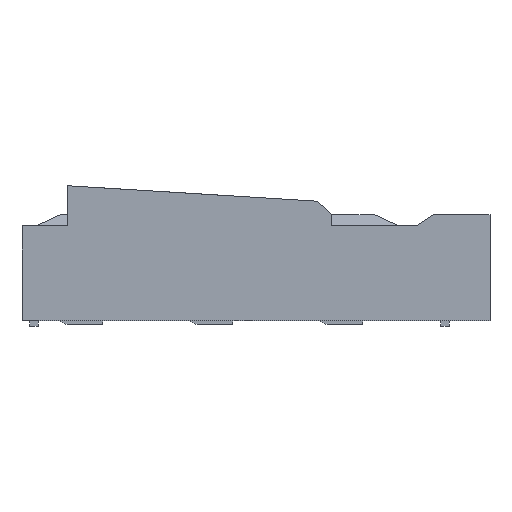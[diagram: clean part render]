
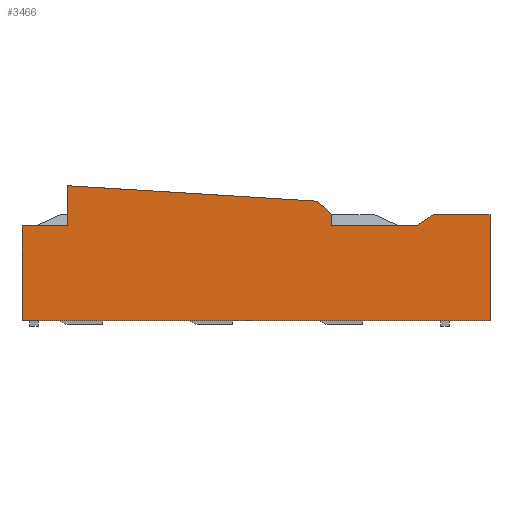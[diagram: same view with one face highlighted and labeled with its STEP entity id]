
A CAD part, left-side view. The second image highlights one B-rep face of the part: STEP entity #3466.
In plain terms, the highlighted planar face has unit normal (-1, 0, 0).
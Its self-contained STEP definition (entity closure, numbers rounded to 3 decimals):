
#76 = DIRECTION ( 'NONE',  ( 0., 1., 0. ) ) ;
#122 = DIRECTION ( 'NONE',  ( 0., 0.842, -0.539 ) ) ;
#161 = VERTEX_POINT ( 'NONE', #3608 ) ;
#386 = VECTOR ( 'NONE', #3342, 1000. ) ;
#442 = DIRECTION ( 'NONE',  ( 0., 1., 0. ) ) ;
#457 = DIRECTION ( 'NONE',  ( 0., 0.998, 0.062 ) ) ;
#473 = AXIS2_PLACEMENT_3D ( 'NONE', #1100, #1426, #3619 ) ;
#477 = CARTESIAN_POINT ( 'NONE',  ( -50., 268., 0. ) ) ;
#492 = LINE ( 'NONE', #3957, #3857 ) ;
#642 = LINE ( 'NONE', #3910, #3901 ) ;
#775 = PLANE ( 'NONE',  #473 ) ;
#786 = FACE_OUTER_BOUND ( 'NONE', #1377, .T. ) ;
#806 = DIRECTION ( 'NONE',  ( 0., 0., -1. ) ) ;
#851 = LINE ( 'NONE', #1093, #1406 ) ;
#855 = CARTESIAN_POINT ( 'NONE',  ( -50., -253., 159. ) ) ;
#957 = VECTOR ( 'NONE', #3882, 1000. ) ;
#1093 = CARTESIAN_POINT ( 'NONE',  ( -50., 0., 143. ) ) ;
#1100 = CARTESIAN_POINT ( 'NONE',  ( -50., 333., 200. ) ) ;
#1145 = VERTEX_POINT ( 'NONE', #2088 ) ;
#1270 = VECTOR ( 'NONE', #2276, 1000. ) ;
#1377 = EDGE_LOOP ( 'NONE', ( #3689, #3990, #1442, #2362, #1578, #2057, #2353, #1493, #1785, #3044, #1487 ) ) ;
#1406 = VECTOR ( 'NONE', #442, 1000. ) ;
#1426 = DIRECTION ( 'NONE',  ( 1., 0., 0. ) ) ;
#1442 = ORIENTED_EDGE ( 'NONE', *, *, #2550, .F. ) ;
#1487 = ORIENTED_EDGE ( 'NONE', *, *, #2631, .T. ) ;
#1493 = ORIENTED_EDGE ( 'NONE', *, *, #2446, .T. ) ;
#1511 = LINE ( 'NONE', #2047, #1606 ) ;
#1578 = ORIENTED_EDGE ( 'NONE', *, *, #2577, .T. ) ;
#1606 = VECTOR ( 'NONE', #122, 1000. ) ;
#1716 = DIRECTION ( 'NONE',  ( 0., 1., 0. ) ) ;
#1773 = VERTEX_POINT ( 'NONE', #3713 ) ;
#1785 = ORIENTED_EDGE ( 'NONE', *, *, #2622, .T. ) ;
#1802 = CARTESIAN_POINT ( 'NONE',  ( -50., -88., 178. ) ) ;
#1826 = VERTEX_POINT ( 'NONE', #3738 ) ;
#1963 = CARTESIAN_POINT ( 'NONE',  ( -50., -130.628, 137.503 ) ) ;
#2004 = CARTESIAN_POINT ( 'NONE',  ( -50., 333., 200. ) ) ;
#2023 = CARTESIAN_POINT ( 'NONE',  ( -50., -333., 200. ) ) ;
#2047 = CARTESIAN_POINT ( 'NONE',  ( -50., -1.326, -2.072 ) ) ;
#2057 = ORIENTED_EDGE ( 'NONE', *, *, #2587, .T. ) ;
#2088 = CARTESIAN_POINT ( 'NONE',  ( -50., -228., 143. ) ) ;
#2094 = VECTOR ( 'NONE', #806, 1000. ) ;
#2160 = VERTEX_POINT ( 'NONE', #2343 ) ;
#2196 = VECTOR ( 'NONE', #2684, 1000. ) ;
#2252 = VERTEX_POINT ( 'NONE', #3155 ) ;
#2276 = DIRECTION ( 'NONE',  ( 0., 0.725, 0.689 ) ) ;
#2327 = CARTESIAN_POINT ( 'NONE',  ( -50., 333., 143. ) ) ;
#2343 = CARTESIAN_POINT ( 'NONE',  ( -50., -333., 8. ) ) ;
#2353 = ORIENTED_EDGE ( 'NONE', *, *, #2593, .T. ) ;
#2362 = ORIENTED_EDGE ( 'NONE', *, *, #2571, .T. ) ;
#2438 = VECTOR ( 'NONE', #76, 1000. ) ;
#2446 = EDGE_CURVE ( 'NONE', #1826, #3651, #3760, .T. ) ;
#2526 = EDGE_CURVE ( 'NONE', #3407, #3977, #3561, .T. ) ;
#2546 = EDGE_CURVE ( 'NONE', #2160, #3977, #4104, .T. ) ;
#2550 = EDGE_CURVE ( 'NONE', #2252, #2160, #4009, .T. ) ;
#2566 = VERTEX_POINT ( 'NONE', #2656 ) ;
#2571 = EDGE_CURVE ( 'NONE', #2252, #2722, #642, .T. ) ;
#2577 = EDGE_CURVE ( 'NONE', #2722, #1145, #1511, .T. ) ;
#2587 = EDGE_CURVE ( 'NONE', #1145, #161, #851, .T. ) ;
#2593 = EDGE_CURVE ( 'NONE', #161, #1826, #3038, .T. ) ;
#2622 = EDGE_CURVE ( 'NONE', #3651, #1773, #492, .T. ) ;
#2626 = EDGE_CURVE ( 'NONE', #1773, #2566, #3763, .T. ) ;
#2631 = EDGE_CURVE ( 'NONE', #2566, #3407, #2933, .T. ) ;
#2656 = CARTESIAN_POINT ( 'NONE',  ( -50., 268., 143. ) ) ;
#2684 = DIRECTION ( 'NONE',  ( 0., 0., 1. ) ) ;
#2722 = VERTEX_POINT ( 'NONE', #855 ) ;
#2933 = LINE ( 'NONE', #3030, #386 ) ;
#2975 = DIRECTION ( 'NONE',  ( 0., 0., -1. ) ) ;
#3030 = CARTESIAN_POINT ( 'NONE',  ( -50., 0., 143. ) ) ;
#3038 = LINE ( 'NONE', #3610, #2196 ) ;
#3044 = ORIENTED_EDGE ( 'NONE', *, *, #2626, .T. ) ;
#3155 = CARTESIAN_POINT ( 'NONE',  ( -50., -333., 159. ) ) ;
#3186 = VECTOR ( 'NONE', #2975, 1000. ) ;
#3342 = DIRECTION ( 'NONE',  ( 0., 1., 0. ) ) ;
#3407 = VERTEX_POINT ( 'NONE', #2327 ) ;
#3466 = ADVANCED_FACE ( 'NONE', ( #786 ), #775, .F. ) ;
#3561 = LINE ( 'NONE', #2004, #957 ) ;
#3608 = CARTESIAN_POINT ( 'NONE',  ( -50., -108., 143. ) ) ;
#3610 = CARTESIAN_POINT ( 'NONE',  ( -50., -108., 47.245 ) ) ;
#3619 = DIRECTION ( 'NONE',  ( 0., 1., 0. ) ) ;
#3651 = VERTEX_POINT ( 'NONE', #1802 ) ;
#3689 = ORIENTED_EDGE ( 'NONE', *, *, #2526, .T. ) ;
#3713 = CARTESIAN_POINT ( 'NONE',  ( -50., 268., 200. ) ) ;
#3738 = CARTESIAN_POINT ( 'NONE',  ( -50., -108., 159. ) ) ;
#3760 = LINE ( 'NONE', #1963, #1270 ) ;
#3763 = LINE ( 'NONE', #477, #2094 ) ;
#3832 = CARTESIAN_POINT ( 'NONE',  ( -50., 333., 8. ) ) ;
#3857 = VECTOR ( 'NONE', #457, 1000. ) ;
#3882 = DIRECTION ( 'NONE',  ( 0., 0., -1. ) ) ;
#3898 = CARTESIAN_POINT ( 'NONE',  ( -50., -333., 8. ) ) ;
#3901 = VECTOR ( 'NONE', #1716, 1000. ) ;
#3910 = CARTESIAN_POINT ( 'NONE',  ( -50., 0., 159. ) ) ;
#3957 = CARTESIAN_POINT ( 'NONE',  ( -50., -11.293, 182.74 ) ) ;
#3977 = VERTEX_POINT ( 'NONE', #3832 ) ;
#3990 = ORIENTED_EDGE ( 'NONE', *, *, #2546, .F. ) ;
#4009 = LINE ( 'NONE', #2023, #3186 ) ;
#4104 = LINE ( 'NONE', #3898, #2438 ) ;
